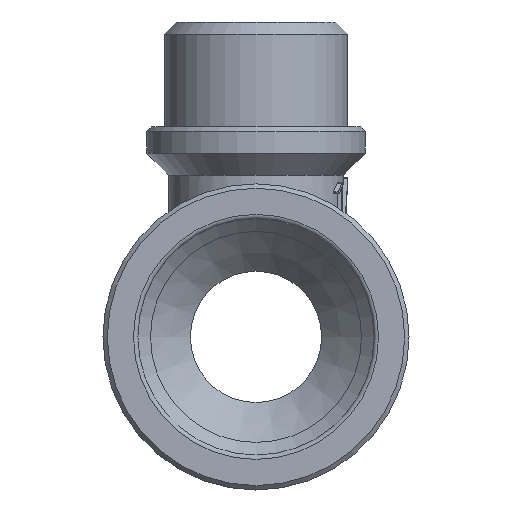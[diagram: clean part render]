
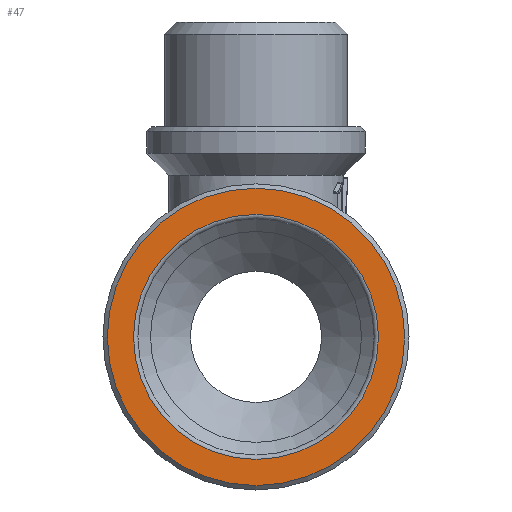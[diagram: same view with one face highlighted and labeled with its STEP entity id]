
A CAD part, front view. The second image highlights one B-rep face of the part: STEP entity #47.
In plain terms, the highlighted planar face has unit normal (0, -1, 0).
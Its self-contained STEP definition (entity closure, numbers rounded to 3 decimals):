
#47=ADVANCED_FACE('',(#402,#404),#406,.F.);
#402=FACE_BOUND('',#403,.T.);
#403=EDGE_LOOP('',(#2942));
#404=FACE_BOUND('',#405,.T.);
#405=EDGE_LOOP('',(#2943));
#406=PLANE('',#407);
#407=AXIS2_PLACEMENT_3D('',#408,#409,#410);
#408=CARTESIAN_POINT('',(0.,-25.,0.));
#409=DIRECTION('',(0.,1.,0.));
#410=DIRECTION('',(-1.,0.,0.));
#2942=ORIENTED_EDGE('',*,*,#5251,.T.);
#2943=ORIENTED_EDGE('',*,*,#5252,.T.);
#5251=EDGE_CURVE('',#6134,#6134,#6135,.T.);
#5252=EDGE_CURVE('',#6136,#6136,#6137,.F.);
#6134=VERTEX_POINT('',#7744);
#6135=CIRCLE('',#7745,17.);
#6136=VERTEX_POINT('',#7749);
#6137=CIRCLE('',#7750,14.);
#7744=CARTESIAN_POINT('',(0.,-25.,17.));
#7745=AXIS2_PLACEMENT_3D('',#7746,#7747,#7748);
#7746=CARTESIAN_POINT('',(0.,-25.,0.));
#7747=DIRECTION('',(0.,-1.,0.));
#7748=DIRECTION('',(0.,0.,1.));
#7749=CARTESIAN_POINT('',(14.,-25.,0.));
#7750=AXIS2_PLACEMENT_3D('',#7751,#7752,#7753);
#7751=CARTESIAN_POINT('',(0.,-25.,0.));
#7752=DIRECTION('',(0.,-1.,0.));
#7753=DIRECTION('',(1.,0.,0.));
